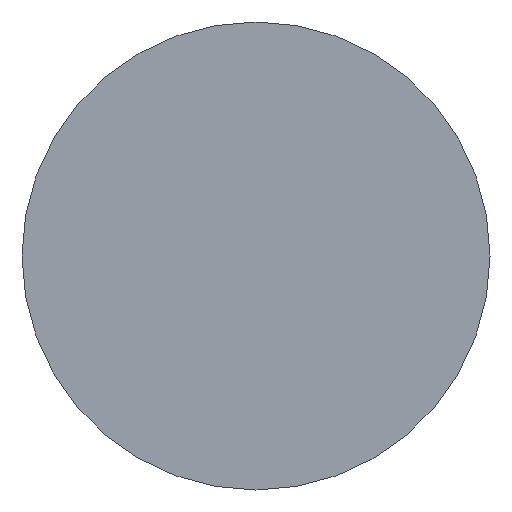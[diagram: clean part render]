
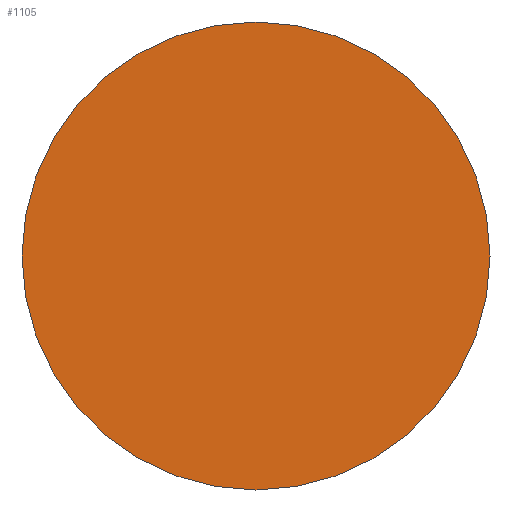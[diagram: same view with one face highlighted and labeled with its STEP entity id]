
A CAD part, front view. The second image highlights one B-rep face of the part: STEP entity #1105.
In plain terms, the highlighted planar face has unit normal (0, -1, 0).
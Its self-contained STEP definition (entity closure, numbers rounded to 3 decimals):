
#1067 = VERTEX_POINT ( 'NONE', #4591 ) ;
#1105 = ADVANCED_FACE ( 'NONE', ( #4658 ), #4657, .F. ) ;
#1106 = EDGE_LOOP ( 'NONE', ( #1162, #1164 ) ) ;
#1162 = ORIENTED_EDGE ( 'NONE', *, *, #1163, .F. ) ;
#1163 = EDGE_CURVE ( 'NONE', #1199, #1067, #4758, .T. ) ;
#1164 = ORIENTED_EDGE ( 'NONE', *, *, #1198, .F. ) ;
#1198 = EDGE_CURVE ( 'NONE', #1067, #1199, #4823, .T. ) ;
#1199 = VERTEX_POINT ( 'NONE', #4818 ) ;
#4591 = CARTESIAN_POINT ( 'NONE',  ( 0., 380., 140. ) ) ;
#4653 = DIRECTION ( 'NONE',  ( 0., 0., 1. ) ) ;
#4654 = DIRECTION ( 'NONE',  ( 0., 1., 0. ) ) ;
#4655 = CARTESIAN_POINT ( 'NONE',  ( 0., 380., 0. ) ) ;
#4656 = AXIS2_PLACEMENT_3D ( 'NONE', #4655, #4654, #4653 ) ;
#4657 = PLANE ( 'NONE',  #4656 ) ;
#4658 = FACE_OUTER_BOUND ( 'NONE', #1106, .T. ) ;
#4754 = DIRECTION ( 'NONE',  ( 0., 0., 1. ) ) ;
#4755 = DIRECTION ( 'NONE',  ( 0., 1., 0. ) ) ;
#4756 = CARTESIAN_POINT ( 'NONE',  ( 0., 380., 0. ) ) ;
#4757 = AXIS2_PLACEMENT_3D ( 'NONE', #4756, #4755, #4754 ) ;
#4758 = CIRCLE ( 'NONE', #4757, 140. ) ;
#4818 = CARTESIAN_POINT ( 'NONE',  ( 0., 380., -140. ) ) ;
#4819 = DIRECTION ( 'NONE',  ( 0., 0., 1. ) ) ;
#4820 = DIRECTION ( 'NONE',  ( 0., 1., 0. ) ) ;
#4821 = CARTESIAN_POINT ( 'NONE',  ( 0., 380., 0. ) ) ;
#4822 = AXIS2_PLACEMENT_3D ( 'NONE', #4821, #4820, #4819 ) ;
#4823 = CIRCLE ( 'NONE', #4822, 140. ) ;
